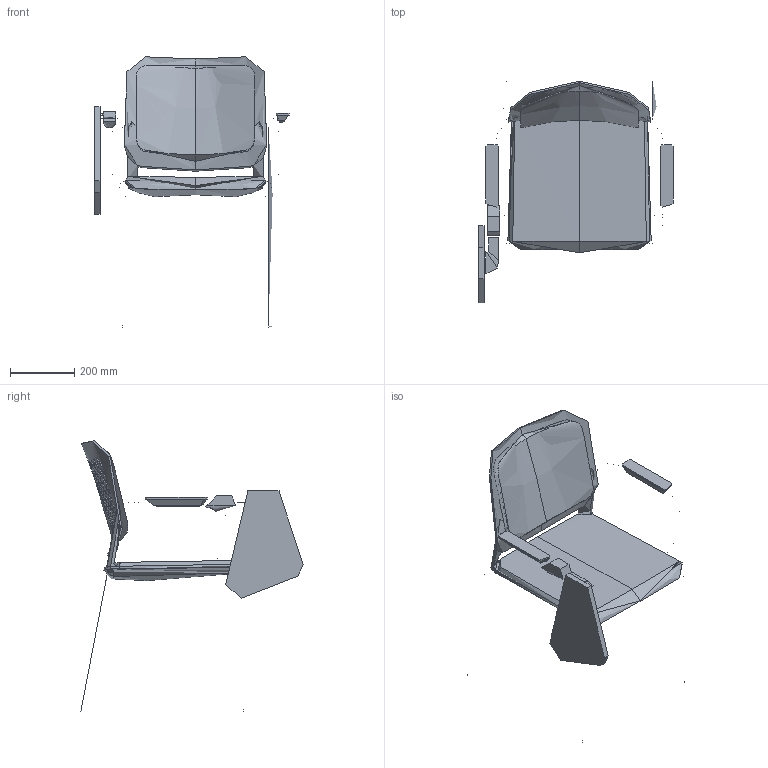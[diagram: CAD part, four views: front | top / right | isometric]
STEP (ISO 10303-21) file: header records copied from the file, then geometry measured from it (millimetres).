
FILE_DESCRIPTION(/* description */ (''),/* implementation_level */ '2;1');
FILE_NAME(/* name */ 'Time 172-B-TP',/* time_stamp */ '2019-11-22T22:58:13+01:00',/* author */ (''),/* organization */ (''),/* preprocessor_version */ 'ST-DEVELOPER v16.5',/* originating_system */ '',/* authorisation */ '');
FILE_SCHEMA (('AUTOMOTIVE_DESIGN'));
Length unit declared in the file: millimetre
Products named in the file (1): Document
Bounding box: 604 x 690.7 x 840.75 mm (x, y, z)
Volume: 5868655.1 mm3; surface area: 2153245.8 mm2
Topology: 4 solids, 18 shells, 1171 faces, 3410 edges, 2233 vertices
Faces by surface type: bspline 662, plane 509
Entity records: 66170 total; most frequent: CARTESIAN_POINT 44346, ORIENTED_EDGE 6765, EDGE_CURVE 3407, B_SPLINE_CURVE_WITH_KNOTS 3259, VERTEX_POINT 2231, EDGE_LOOP 1623, ADVANCED_FACE 1171, FACE_OUTER_BOUND 1171
